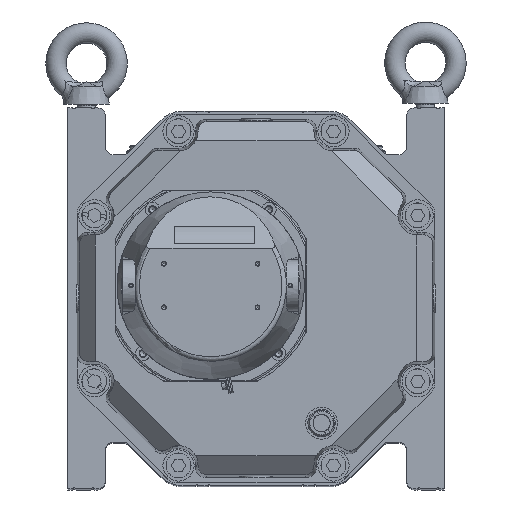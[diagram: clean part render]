
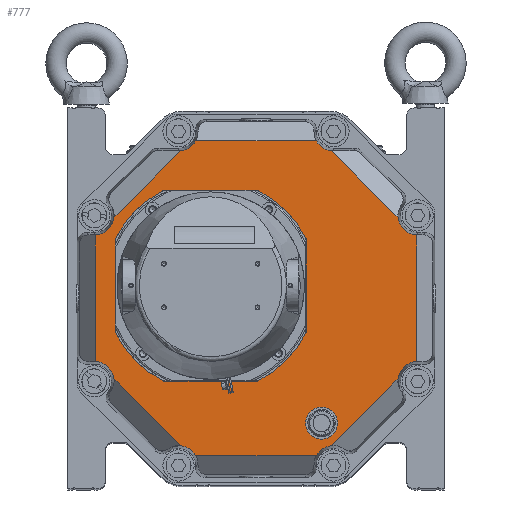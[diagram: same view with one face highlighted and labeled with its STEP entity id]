
A CAD part, top view. The second image highlights one B-rep face of the part: STEP entity #777.
In plain terms, the highlighted planar face has unit normal (0, 0, 1).
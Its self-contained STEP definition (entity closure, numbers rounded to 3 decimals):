
#777=ADVANCED_FACE('',(#14462,#14464,#14466),#14468,.T.);
#14462=FACE_BOUND('',#14463,.T.);
#14463=EDGE_LOOP('',(#31382,#31383,#31384,#31385,#31386,#31387,#31388,#31389,#31390,
#31391,#31392,#31393,#31394,#31395,#31396,#31397));
#14464=FACE_BOUND('',#14465,.T.);
#14465=EDGE_LOOP('',(#31398));
#14466=FACE_BOUND('',#14467,.T.);
#14467=EDGE_LOOP('',(#31399,#31400,#31401,#31402,#31403,#31404,#31405,#31406));
#14468=PLANE('',#14469);
#14469=AXIS2_PLACEMENT_3D('',#14470,#14471,#14472);
#14470=CARTESIAN_POINT('',(0.,0.,276.2));
#14471=DIRECTION('',(0.,0.,1.));
#14472=DIRECTION('',(0.,-1.,0.));
#31382=ORIENTED_EDGE('',*,*,#39104,.F.);
#31383=ORIENTED_EDGE('',*,*,#39105,.T.);
#31384=ORIENTED_EDGE('',*,*,#39106,.F.);
#31385=ORIENTED_EDGE('',*,*,#39107,.T.);
#31386=ORIENTED_EDGE('',*,*,#39108,.T.);
#31387=ORIENTED_EDGE('',*,*,#39109,.T.);
#31388=ORIENTED_EDGE('',*,*,#39110,.T.);
#31389=ORIENTED_EDGE('',*,*,#39111,.T.);
#31390=ORIENTED_EDGE('',*,*,#39112,.F.);
#31391=ORIENTED_EDGE('',*,*,#39113,.T.);
#31392=ORIENTED_EDGE('',*,*,#39114,.F.);
#31393=ORIENTED_EDGE('',*,*,#39115,.T.);
#31394=ORIENTED_EDGE('',*,*,#39116,.T.);
#31395=ORIENTED_EDGE('',*,*,#39117,.T.);
#31396=ORIENTED_EDGE('',*,*,#39118,.T.);
#31397=ORIENTED_EDGE('',*,*,#39119,.T.);
#31398=ORIENTED_EDGE('',*,*,#39120,.F.);
#31399=ORIENTED_EDGE('',*,*,#38974,.F.);
#31400=ORIENTED_EDGE('',*,*,#39098,.F.);
#31401=ORIENTED_EDGE('',*,*,#38970,.F.);
#31402=ORIENTED_EDGE('',*,*,#39099,.F.);
#31403=ORIENTED_EDGE('',*,*,#38966,.F.);
#31404=ORIENTED_EDGE('',*,*,#39096,.F.);
#31405=ORIENTED_EDGE('',*,*,#38962,.F.);
#31406=ORIENTED_EDGE('',*,*,#39097,.F.);
#38962=EDGE_CURVE('',#42535,#42537,#42538,.T.);
#38966=EDGE_CURVE('',#42541,#42543,#42544,.T.);
#38970=EDGE_CURVE('',#42547,#42549,#42550,.T.);
#38974=EDGE_CURVE('',#42553,#42555,#42556,.T.);
#39096=EDGE_CURVE('',#42537,#42541,#42759,.T.);
#39097=EDGE_CURVE('',#42555,#42535,#42760,.T.);
#39098=EDGE_CURVE('',#42549,#42553,#42761,.T.);
#39099=EDGE_CURVE('',#42543,#42547,#42762,.T.);
#39104=EDGE_CURVE('',#42771,#42772,#42773,.T.);
#39105=EDGE_CURVE('',#42771,#42774,#42775,.T.);
#39106=EDGE_CURVE('',#42776,#42774,#42777,.T.);
#39107=EDGE_CURVE('',#42776,#42778,#42779,.T.);
#39108=EDGE_CURVE('',#42778,#42780,#42781,.T.);
#39109=EDGE_CURVE('',#42780,#42782,#42783,.T.);
#39110=EDGE_CURVE('',#42782,#42784,#42785,.T.);
#39111=EDGE_CURVE('',#42784,#42786,#42787,.T.);
#39112=EDGE_CURVE('',#42788,#42786,#42789,.T.);
#39113=EDGE_CURVE('',#42788,#42790,#42791,.T.);
#39114=EDGE_CURVE('',#42792,#42790,#42793,.T.);
#39115=EDGE_CURVE('',#42792,#42794,#42795,.T.);
#39116=EDGE_CURVE('',#42794,#42796,#42797,.T.);
#39117=EDGE_CURVE('',#42796,#42798,#42799,.T.);
#39118=EDGE_CURVE('',#42798,#42800,#42801,.T.);
#39119=EDGE_CURVE('',#42800,#42772,#42802,.T.);
#39120=EDGE_CURVE('',#42803,#42803,#42804,.T.);
#42535=VERTEX_POINT('',#49026);
#42537=VERTEX_POINT('',#49030);
#42538=LINE('',#49031,#49032);
#42541=VERTEX_POINT('',#49040);
#42543=VERTEX_POINT('',#49044);
#42544=LINE('',#49045,#49046);
#42547=VERTEX_POINT('',#49054);
#42549=VERTEX_POINT('',#49058);
#42550=LINE('',#49059,#49060);
#42553=VERTEX_POINT('',#49068);
#42555=VERTEX_POINT('',#49072);
#42556=LINE('',#49073,#49074);
#42759=CIRCLE('',#51728,68.052);
#42760=CIRCLE('',#51732,68.052);
#42761=CIRCLE('',#51736,68.052);
#42762=CIRCLE('',#51740,68.052);
#42771=VERTEX_POINT('',#52168);
#42772=VERTEX_POINT('',#52169);
#42773=CIRCLE('',#52170,12.637);
#42774=VERTEX_POINT('',#52174);
#42775=LINE('',#52175,#52176);
#42776=VERTEX_POINT('',#52178);
#42777=CIRCLE('',#52179,12.637);
#42778=VERTEX_POINT('',#52183);
#42779=LINE('',#52184,#52185);
#42780=VERTEX_POINT('',#52187);
#42781=CIRCLE('',#52188,12.637);
#42782=VERTEX_POINT('',#52192);
#42783=LINE('',#52193,#52194);
#42784=VERTEX_POINT('',#52196);
#42785=CIRCLE('',#52197,12.637);
#42786=VERTEX_POINT('',#52201);
#42787=LINE('',#52202,#52203);
#42788=VERTEX_POINT('',#52205);
#42789=CIRCLE('',#52206,12.637);
#42790=VERTEX_POINT('',#52210);
#42791=LINE('',#52211,#52212);
#42792=VERTEX_POINT('',#52214);
#42793=CIRCLE('',#52215,12.637);
#42794=VERTEX_POINT('',#52219);
#42795=LINE('',#52220,#52221);
#42796=VERTEX_POINT('',#52223);
#42797=CIRCLE('',#52224,12.637);
#42798=VERTEX_POINT('',#52228);
#42799=LINE('',#52229,#52230);
#42800=VERTEX_POINT('',#52232);
#42801=CIRCLE('',#52233,12.637);
#42802=LINE('',#52237,#52238);
#42803=VERTEX_POINT('',#52240);
#42804=CIRCLE('',#52241,10.25);
#49026=CARTESIAN_POINT('',(-90.052,38.062,276.2));
#49030=CARTESIAN_POINT('',(-90.052,-22.062,276.2));
#49031=CARTESIAN_POINT('',(-90.052,38.062,276.2));
#49032=VECTOR('',#49033,1.);
#49033=DIRECTION('',(0.,-1.,0.));
#49040=CARTESIAN_POINT('',(-59.062,-53.052,276.2));
#49044=CARTESIAN_POINT('',(1.062,-53.052,276.2));
#49045=CARTESIAN_POINT('',(-59.062,-53.052,276.2));
#49046=VECTOR('',#49047,1.);
#49047=DIRECTION('',(1.,0.,0.));
#49054=CARTESIAN_POINT('',(32.052,-22.062,276.2));
#49058=CARTESIAN_POINT('',(32.052,38.062,276.2));
#49059=CARTESIAN_POINT('',(32.052,-22.062,276.2));
#49060=VECTOR('',#49061,1.);
#49061=DIRECTION('',(0.,1.,0.));
#49068=CARTESIAN_POINT('',(1.062,69.052,276.2));
#49072=CARTESIAN_POINT('',(-59.062,69.052,276.2));
#49073=CARTESIAN_POINT('',(1.062,69.052,276.2));
#49074=VECTOR('',#49075,1.);
#49075=DIRECTION('',(-1.,0.,0.));
#51728=AXIS2_PLACEMENT_3D('',#51729,#51730,#51731);
#51729=CARTESIAN_POINT('',(-29.,8.,276.2));
#51730=DIRECTION('',(0.,0.,1.));
#51731=DIRECTION('',(-0.897,-0.442,0.));
#51732=AXIS2_PLACEMENT_3D('',#51733,#51734,#51735);
#51733=CARTESIAN_POINT('',(-29.,8.,276.2));
#51734=DIRECTION('',(0.,0.,1.));
#51735=DIRECTION('',(-0.442,0.897,0.));
#51736=AXIS2_PLACEMENT_3D('',#51737,#51738,#51739);
#51737=CARTESIAN_POINT('',(-29.,8.,276.2));
#51738=DIRECTION('',(0.,0.,1.));
#51739=DIRECTION('',(0.897,0.442,0.));
#51740=AXIS2_PLACEMENT_3D('',#51741,#51742,#51743);
#51741=CARTESIAN_POINT('',(-29.,8.,276.2));
#51742=DIRECTION('',(0.,0.,1.));
#51743=DIRECTION('',(0.442,-0.897,0.));
#52168=CARTESIAN_POINT('',(-48.199,94.443,276.2));
#52169=CARTESIAN_POINT('',(-38.569,100.863,276.2));
#52170=AXIS2_PLACEMENT_3D('',#52171,#52172,#52173);
#52171=CARTESIAN_POINT('',(-49.615,107.,276.2));
#52172=DIRECTION('',(0.,0.,1.));
#52173=DIRECTION('',(0.112,-0.994,0.));
#52174=CARTESIAN_POINT('',(-90.943,51.699,276.2));
#52175=CARTESIAN_POINT('',(-48.199,94.443,276.2));
#52176=VECTOR('',#52177,1.);
#52177=DIRECTION('',(-0.707,-0.707,0.));
#52178=CARTESIAN_POINT('',(-102.863,40.495,276.2));
#52179=AXIS2_PLACEMENT_3D('',#52180,#52181,#52182);
#52180=CARTESIAN_POINT('',(-103.5,53.115,276.2));
#52181=DIRECTION('',(0.,0.,1.));
#52182=DIRECTION('',(0.05,-0.999,0.));
#52183=CARTESIAN_POINT('',(-102.863,-40.495,276.2));
#52184=CARTESIAN_POINT('',(-102.863,40.495,276.2));
#52185=VECTOR('',#52186,1.);
#52186=DIRECTION('',(0.,-1.,0.));
#52187=CARTESIAN_POINT('',(-90.943,-51.699,276.2));
#52188=AXIS2_PLACEMENT_3D('',#52189,#52190,#52191);
#52189=CARTESIAN_POINT('',(-103.5,-53.115,276.2));
#52190=DIRECTION('',(0.,0.,-1.));
#52191=DIRECTION('',(0.05,0.999,0.));
#52192=CARTESIAN_POINT('',(-48.199,-94.443,276.2));
#52193=CARTESIAN_POINT('',(-90.943,-51.699,276.2));
#52194=VECTOR('',#52195,1.);
#52195=DIRECTION('',(0.707,-0.707,0.));
#52196=CARTESIAN_POINT('',(-38.569,-100.863,276.2));
#52197=AXIS2_PLACEMENT_3D('',#52198,#52199,#52200);
#52198=CARTESIAN_POINT('',(-49.615,-107.,276.2));
#52199=DIRECTION('',(0.,0.,-1.));
#52200=DIRECTION('',(0.112,0.994,0.));
#52201=CARTESIAN_POINT('',(38.569,-100.863,276.2));
#52202=CARTESIAN_POINT('',(-38.569,-100.863,276.2));
#52203=VECTOR('',#52204,1.);
#52204=DIRECTION('',(1.,0.,0.));
#52205=CARTESIAN_POINT('',(48.199,-94.443,276.2));
#52206=AXIS2_PLACEMENT_3D('',#52207,#52208,#52209);
#52207=CARTESIAN_POINT('',(49.615,-107.,276.2));
#52208=DIRECTION('',(0.,0.,1.));
#52209=DIRECTION('',(-0.112,0.994,0.));
#52210=CARTESIAN_POINT('',(90.943,-51.699,276.2));
#52211=CARTESIAN_POINT('',(48.199,-94.443,276.2));
#52212=VECTOR('',#52213,1.);
#52213=DIRECTION('',(0.707,0.707,0.));
#52214=CARTESIAN_POINT('',(102.863,-40.495,276.2));
#52215=AXIS2_PLACEMENT_3D('',#52216,#52217,#52218);
#52216=CARTESIAN_POINT('',(103.5,-53.115,276.2));
#52217=DIRECTION('',(0.,0.,1.));
#52218=DIRECTION('',(-0.05,0.999,0.));
#52219=CARTESIAN_POINT('',(102.863,40.495,276.2));
#52220=CARTESIAN_POINT('',(102.863,-40.495,276.2));
#52221=VECTOR('',#52222,1.);
#52222=DIRECTION('',(0.,1.,0.));
#52223=CARTESIAN_POINT('',(90.943,51.699,276.2));
#52224=AXIS2_PLACEMENT_3D('',#52225,#52226,#52227);
#52225=CARTESIAN_POINT('',(103.5,53.115,276.2));
#52226=DIRECTION('',(0.,0.,-1.));
#52227=DIRECTION('',(-0.05,-0.999,0.));
#52228=CARTESIAN_POINT('',(48.199,94.443,276.2));
#52229=CARTESIAN_POINT('',(90.943,51.699,276.2));
#52230=VECTOR('',#52231,1.);
#52231=DIRECTION('',(-0.707,0.707,0.));
#52232=CARTESIAN_POINT('',(38.569,100.863,276.2));
#52233=AXIS2_PLACEMENT_3D('',#52234,#52235,#52236);
#52234=CARTESIAN_POINT('',(49.615,107.,276.2));
#52235=DIRECTION('',(0.,0.,-1.));
#52236=DIRECTION('',(-0.112,-0.994,0.));
#52237=CARTESIAN_POINT('',(38.569,100.863,276.2));
#52238=VECTOR('',#52239,1.);
#52239=DIRECTION('',(-1.,0.,0.));
#52240=CARTESIAN_POINT('',(42.,-90.25,276.2));
#52241=AXIS2_PLACEMENT_3D('',#52242,#52243,#52244);
#52242=CARTESIAN_POINT('',(42.,-80.,276.2));
#52243=DIRECTION('',(0.,0.,1.));
#52244=DIRECTION('',(0.,1.,0.));
